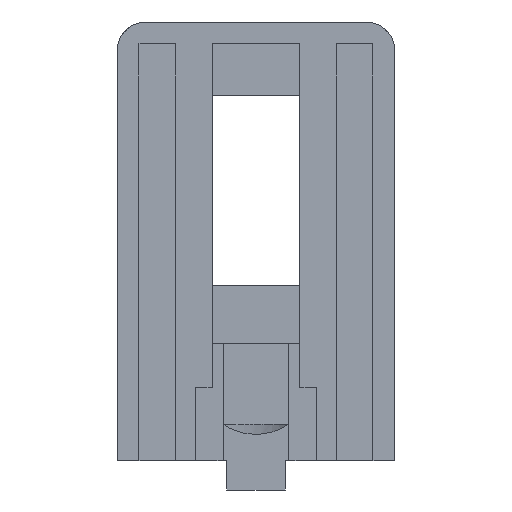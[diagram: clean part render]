
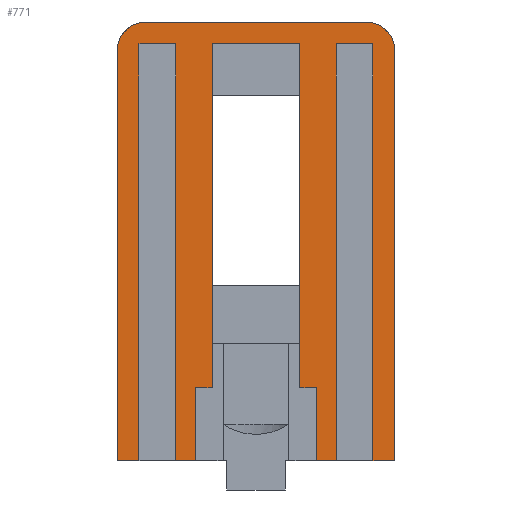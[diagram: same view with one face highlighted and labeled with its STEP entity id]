
A CAD part, front view. The second image highlights one B-rep face of the part: STEP entity #771.
In plain terms, the highlighted planar face has unit normal (0, -1, 0).
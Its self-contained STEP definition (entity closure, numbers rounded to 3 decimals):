
#237=CARTESIAN_POINT('',(-19.0,0.0,0.0));
#238=VERTEX_POINT('',#237);
#245=CARTESIAN_POINT('',(-19.0,0.0,56.));
#246=VERTEX_POINT('',#245);
#247=CARTESIAN_POINT('',(-19.0,0.0,56.));
#248=DIRECTION('',(0.0,0.0,-1.0));
#249=VECTOR('',#248,56.);
#250=LINE('',#247,#249);
#251=EDGE_CURVE('',#246,#238,#250,.T.);
#284=CARTESIAN_POINT('',(19.0,0.0,56.));
#285=VERTEX_POINT('',#284);
#292=CARTESIAN_POINT('',(19.0,0.0,0.0));
#293=VERTEX_POINT('',#292);
#294=CARTESIAN_POINT('',(19.0,0.0,56.));
#295=DIRECTION('',(0.0,0.0,-1.0));
#296=VECTOR('',#295,56.);
#297=LINE('',#294,#296);
#298=EDGE_CURVE('',#285,#293,#297,.T.);
#543=CARTESIAN_POINT('',(15.0,0.0,60.0));
#544=VERTEX_POINT('',#543);
#551=CARTESIAN_POINT('',(15.0,0.0,56.));
#552=DIRECTION('',(0.0,-1.0,0.0));
#553=DIRECTION('',(1.0,0.0,0.0));
#554=AXIS2_PLACEMENT_3D('',#551,#552,#553);
#555=CIRCLE('',#554,4.0);
#556=EDGE_CURVE('',#285,#544,#555,.T.);
#601=CARTESIAN_POINT('',(-15.0,0.0,60.0));
#602=VERTEX_POINT('',#601);
#603=CARTESIAN_POINT('',(-15.0,0.0,56.));
#604=DIRECTION('',(0.0,-1.0,0.0));
#605=DIRECTION('',(0.0,0.0,1.0));
#606=AXIS2_PLACEMENT_3D('',#603,#604,#605);
#607=CIRCLE('',#606,4.);
#608=EDGE_CURVE('',#602,#246,#607,.T.);
#620=CARTESIAN_POINT('',(19.0,0.0,60.0));
#621=DIRECTION('',(0.0,-1.0,0.0));
#622=DIRECTION('',(0.0,0.0,-1.0));
#623=AXIS2_PLACEMENT_3D('',#620,#621,#622);
#624=PLANE('',#623);
#625=ORIENTED_EDGE('',*,*,#556,.T.);
#626=CARTESIAN_POINT('',(15.0,0.0,60.0));
#627=DIRECTION('',(-1.0,0.0,0.0));
#628=VECTOR('',#627,30.0);
#629=LINE('',#626,#628);
#630=EDGE_CURVE('',#544,#602,#629,.T.);
#631=ORIENTED_EDGE('',*,*,#630,.T.);
#632=ORIENTED_EDGE('',*,*,#608,.T.);
#633=ORIENTED_EDGE('',*,*,#251,.T.);
#634=CARTESIAN_POINT('',(-16.0,0.0,0.0));
#635=VERTEX_POINT('',#634);
#636=CARTESIAN_POINT('',(-16.0,0.0,0.0));
#637=DIRECTION('',(-1.0,0.0,0.0));
#638=VECTOR('',#637,3.0);
#639=LINE('',#636,#638);
#640=EDGE_CURVE('',#635,#238,#639,.T.);
#641=ORIENTED_EDGE('',*,*,#640,.F.);
#642=CARTESIAN_POINT('',(-16.0,0.0,57.0));
#643=VERTEX_POINT('',#642);
#644=CARTESIAN_POINT('',(-16.0,0.0,0.0));
#645=DIRECTION('',(0.0,0.0,1.0));
#646=VECTOR('',#645,57.0);
#647=LINE('',#644,#646);
#648=EDGE_CURVE('',#635,#643,#647,.T.);
#649=ORIENTED_EDGE('',*,*,#648,.T.);
#650=CARTESIAN_POINT('',(-11.0,0.0,57.0));
#651=VERTEX_POINT('',#650);
#652=CARTESIAN_POINT('',(-16.0,0.0,57.0));
#653=DIRECTION('',(1.0,0.0,0.0));
#654=VECTOR('',#653,5.0);
#655=LINE('',#652,#654);
#656=EDGE_CURVE('',#643,#651,#655,.T.);
#657=ORIENTED_EDGE('',*,*,#656,.T.);
#658=CARTESIAN_POINT('',(-11.0,0.0,0.0));
#659=VERTEX_POINT('',#658);
#660=CARTESIAN_POINT('',(-11.0,0.0,57.0));
#661=DIRECTION('',(0.0,0.0,-1.0));
#662=VECTOR('',#661,57.0);
#663=LINE('',#660,#662);
#664=EDGE_CURVE('',#651,#659,#663,.T.);
#665=ORIENTED_EDGE('',*,*,#664,.T.);
#666=CARTESIAN_POINT('',(-8.25,0.0,0.0));
#667=VERTEX_POINT('',#666);
#668=CARTESIAN_POINT('',(-8.25,0.0,0.0));
#669=DIRECTION('',(-1.0,0.0,0.0));
#670=VECTOR('',#669,2.75);
#671=LINE('',#668,#670);
#672=EDGE_CURVE('',#667,#659,#671,.T.);
#673=ORIENTED_EDGE('',*,*,#672,.F.);
#674=CARTESIAN_POINT('',(-8.25,0.0,10.0));
#675=VERTEX_POINT('',#674);
#676=CARTESIAN_POINT('',(-8.25,0.0,0.0));
#677=DIRECTION('',(0.0,0.0,1.0));
#678=VECTOR('',#677,10.0);
#679=LINE('',#676,#678);
#680=EDGE_CURVE('',#667,#675,#679,.T.);
#681=ORIENTED_EDGE('',*,*,#680,.T.);
#682=CARTESIAN_POINT('',(-6.,0.0,10.0));
#683=VERTEX_POINT('',#682);
#684=CARTESIAN_POINT('',(-8.25,0.0,10.0));
#685=DIRECTION('',(1.0,0.0,0.0));
#686=VECTOR('',#685,2.25);
#687=LINE('',#684,#686);
#688=EDGE_CURVE('',#675,#683,#687,.T.);
#689=ORIENTED_EDGE('',*,*,#688,.T.);
#690=CARTESIAN_POINT('',(-6.,0.0,57.0));
#691=VERTEX_POINT('',#690);
#692=CARTESIAN_POINT('',(-6.,0.0,10.0));
#693=DIRECTION('',(0.0,0.0,1.0));
#694=VECTOR('',#693,47.0);
#695=LINE('',#692,#694);
#696=EDGE_CURVE('',#683,#691,#695,.T.);
#697=ORIENTED_EDGE('',*,*,#696,.T.);
#698=CARTESIAN_POINT('',(6.,0.0,57.0));
#699=VERTEX_POINT('',#698);
#700=CARTESIAN_POINT('',(-6.,0.0,57.0));
#701=DIRECTION('',(1.0,0.0,0.0));
#702=VECTOR('',#701,12.);
#703=LINE('',#700,#702);
#704=EDGE_CURVE('',#691,#699,#703,.T.);
#705=ORIENTED_EDGE('',*,*,#704,.T.);
#706=CARTESIAN_POINT('',(6.,0.0,10.0));
#707=VERTEX_POINT('',#706);
#708=CARTESIAN_POINT('',(6.,0.0,57.0));
#709=DIRECTION('',(0.0,0.0,-1.0));
#710=VECTOR('',#709,47.0);
#711=LINE('',#708,#710);
#712=EDGE_CURVE('',#699,#707,#711,.T.);
#713=ORIENTED_EDGE('',*,*,#712,.T.);
#714=CARTESIAN_POINT('',(8.25,0.0,10.0));
#715=VERTEX_POINT('',#714);
#716=CARTESIAN_POINT('',(6.,0.0,10.0));
#717=DIRECTION('',(1.0,0.0,0.0));
#718=VECTOR('',#717,2.25);
#719=LINE('',#716,#718);
#720=EDGE_CURVE('',#707,#715,#719,.T.);
#721=ORIENTED_EDGE('',*,*,#720,.T.);
#722=CARTESIAN_POINT('',(8.25,0.0,0.0));
#723=VERTEX_POINT('',#722);
#724=CARTESIAN_POINT('',(8.25,0.0,10.0));
#725=DIRECTION('',(0.0,0.0,-1.0));
#726=VECTOR('',#725,10.0);
#727=LINE('',#724,#726);
#728=EDGE_CURVE('',#715,#723,#727,.T.);
#729=ORIENTED_EDGE('',*,*,#728,.T.);
#730=CARTESIAN_POINT('',(11.0,0.0,0.0));
#731=VERTEX_POINT('',#730);
#732=CARTESIAN_POINT('',(11.0,0.0,0.0));
#733=DIRECTION('',(-1.0,0.0,0.0));
#734=VECTOR('',#733,2.75);
#735=LINE('',#732,#734);
#736=EDGE_CURVE('',#731,#723,#735,.T.);
#737=ORIENTED_EDGE('',*,*,#736,.F.);
#738=CARTESIAN_POINT('',(11.0,0.0,57.0));
#739=VERTEX_POINT('',#738);
#740=CARTESIAN_POINT('',(11.0,0.0,0.0));
#741=DIRECTION('',(0.0,0.0,1.0));
#742=VECTOR('',#741,57.0);
#743=LINE('',#740,#742);
#744=EDGE_CURVE('',#731,#739,#743,.T.);
#745=ORIENTED_EDGE('',*,*,#744,.T.);
#746=CARTESIAN_POINT('',(16.0,0.0,57.0));
#747=VERTEX_POINT('',#746);
#748=CARTESIAN_POINT('',(11.0,0.0,57.0));
#749=DIRECTION('',(1.0,0.0,0.0));
#750=VECTOR('',#749,5.0);
#751=LINE('',#748,#750);
#752=EDGE_CURVE('',#739,#747,#751,.T.);
#753=ORIENTED_EDGE('',*,*,#752,.T.);
#754=CARTESIAN_POINT('',(16.0,0.0,0.0));
#755=VERTEX_POINT('',#754);
#756=CARTESIAN_POINT('',(16.0,0.0,57.0));
#757=DIRECTION('',(0.0,0.0,-1.0));
#758=VECTOR('',#757,57.0);
#759=LINE('',#756,#758);
#760=EDGE_CURVE('',#747,#755,#759,.T.);
#761=ORIENTED_EDGE('',*,*,#760,.T.);
#762=CARTESIAN_POINT('',(19.0,0.0,0.0));
#763=DIRECTION('',(-1.0,0.0,0.0));
#764=VECTOR('',#763,3.0);
#765=LINE('',#762,#764);
#766=EDGE_CURVE('',#293,#755,#765,.T.);
#767=ORIENTED_EDGE('',*,*,#766,.F.);
#768=ORIENTED_EDGE('',*,*,#298,.F.);
#769=EDGE_LOOP('',(#625,#631,#632,#633,#641,#649,#657,#665,#673,#681,#689,#697,#705,#713,#721,#729,#737,#745,#753,#761,#767,#768));
#770=FACE_OUTER_BOUND('',#769,.T.);
#771=ADVANCED_FACE('',(#770),#624,.T.);
